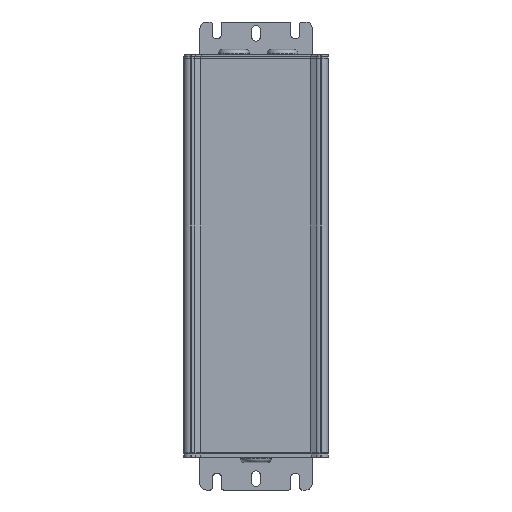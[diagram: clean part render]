
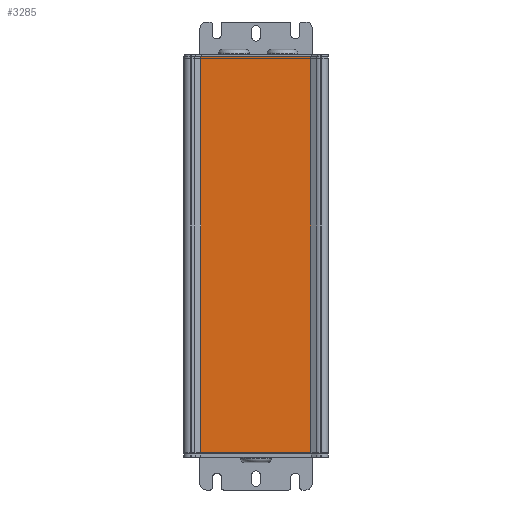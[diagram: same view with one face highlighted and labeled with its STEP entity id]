
A CAD part, left-side view. The second image highlights one B-rep face of the part: STEP entity #3285.
In plain terms, the highlighted planar face has unit normal (-1, 0, 0).
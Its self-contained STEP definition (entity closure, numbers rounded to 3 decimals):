
#3229=CARTESIAN_POINT('',(1767.992,-2398.164,-3.8));
#3230=VERTEX_POINT('',#3229);
#3237=CARTESIAN_POINT('',(1767.992,-2398.164,183.0));
#3238=VERTEX_POINT('',#3237);
#3239=CARTESIAN_POINT('',(1767.992,-2398.164,-3.8));
#3240=DIRECTION('',(0.0,0.0,1.0));
#3241=VECTOR('',#3240,186.8);
#3242=LINE('',#3239,#3241);
#3243=EDGE_CURVE('',#3230,#3238,#3242,.T.);
#3255=CARTESIAN_POINT('',(1767.992,-2450.164,0.0));
#3256=DIRECTION('',(-1.0,0.0,0.0));
#3257=DIRECTION('',(0.0,0.0,1.0));
#3258=AXIS2_PLACEMENT_3D('',#3255,#3256,#3257);
#3259=PLANE('',#3258);
#3260=CARTESIAN_POINT('',(1767.992,-2450.164,-3.8));
#3261=VERTEX_POINT('',#3260);
#3262=CARTESIAN_POINT('',(1767.992,-2450.164,-3.8));
#3263=DIRECTION('',(0.0,1.0,0.0));
#3264=VECTOR('',#3263,52.);
#3265=LINE('',#3262,#3264);
#3266=EDGE_CURVE('',#3261,#3230,#3265,.T.);
#3267=ORIENTED_EDGE('',*,*,#3266,.F.);
#3268=CARTESIAN_POINT('',(1767.992,-2450.164,183.0));
#3269=VERTEX_POINT('',#3268);
#3270=CARTESIAN_POINT('',(1767.992,-2450.164,-3.8));
#3271=DIRECTION('',(0.0,0.0,1.0));
#3272=VECTOR('',#3271,186.8);
#3273=LINE('',#3270,#3272);
#3274=EDGE_CURVE('',#3261,#3269,#3273,.T.);
#3275=ORIENTED_EDGE('',*,*,#3274,.T.);
#3276=CARTESIAN_POINT('',(1767.992,-2450.164,183.0));
#3277=DIRECTION('',(0.0,1.0,0.0));
#3278=VECTOR('',#3277,52.);
#3279=LINE('',#3276,#3278);
#3280=EDGE_CURVE('',#3269,#3238,#3279,.T.);
#3281=ORIENTED_EDGE('',*,*,#3280,.T.);
#3282=ORIENTED_EDGE('',*,*,#3243,.F.);
#3283=EDGE_LOOP('',(#3267,#3275,#3281,#3282));
#3284=FACE_OUTER_BOUND('',#3283,.T.);
#3285=ADVANCED_FACE('',(#3284),#3259,.T.);
